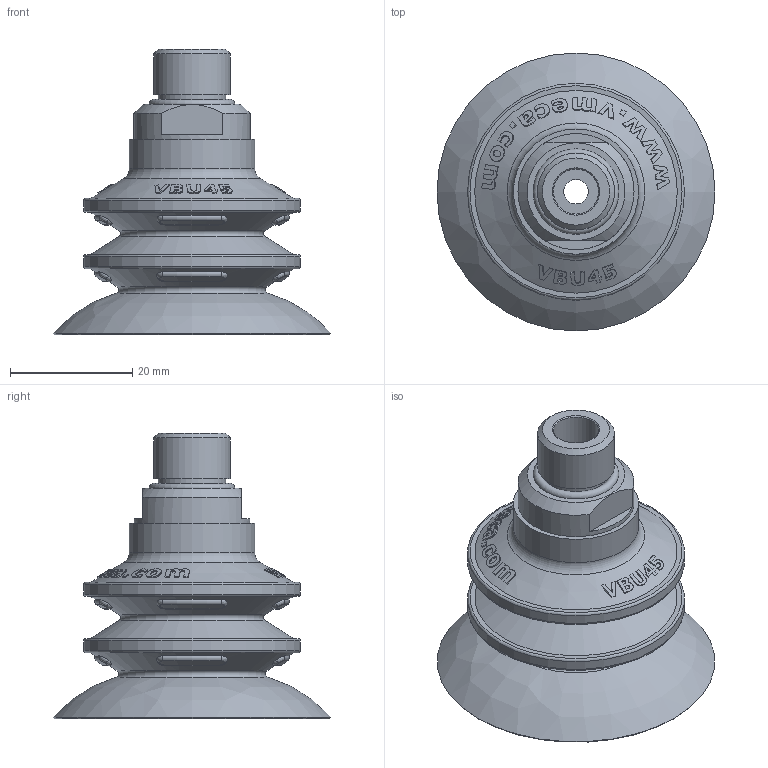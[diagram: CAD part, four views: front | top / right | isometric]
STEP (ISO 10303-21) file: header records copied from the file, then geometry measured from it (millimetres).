
FILE_DESCRIPTION( ( 'Unknown' ), '1' );
FILE_NAME( 'D:/New PAD/3欽 寨煎辦鍔/3D/VBU45/STP/VBU45.. - 14M.stp', 'Unknown', ( 'Unknown' ), ( 'Unknown' ), 'PSStep 10.0', 'Unknown', ' ' );
FILE_SCHEMA( ( 'automotive_design' ) );
Length unit declared in the file: millimetre
Products named in the file (1): 14M-30,40
Bounding box: 45.5 x 45.5 x 46.8 mm (x, y, z)
Volume: 12136.8 mm3; surface area: 10631.1 mm2
Topology: 1 solids, 1 shells, 342 faces, 874 edges, 573 vertices
Faces by surface type: bspline 207, cone 47, torus 38, plane 31, cylinder 19
Full cylindrical faces by diameter (mm): 4 x1, 7.4 x1, 11 x2, 12.6 x1, 18.979 x2, 19 x1, 20.5 x1, 35.5 x2
Entity records: 24034 total; most frequent: CARTESIAN_POINT 14892, ORIENTED_EDGE 1640, EDGE_CURVE 820, DIRECTION 684, B_SPLINE_CURVE_WITH_KNOTS 591, VERTEX_POINT 565, EDGE_LOOP 429, FACE_OUTER_BOUND 371
